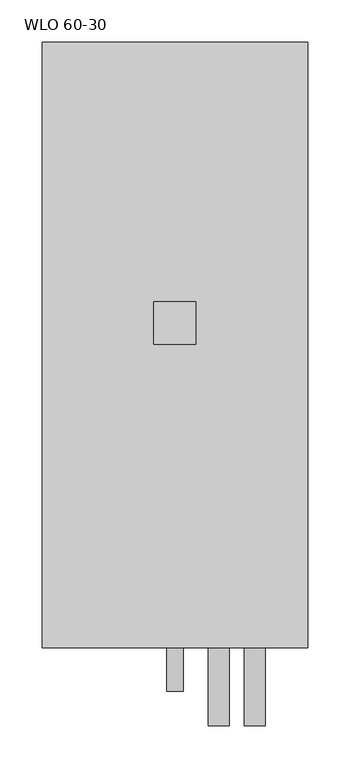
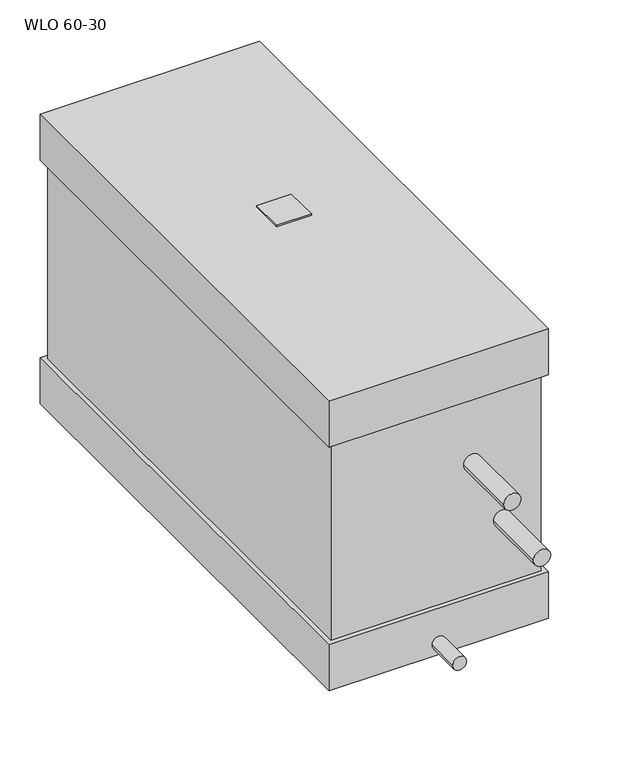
"""IFC4 building model written with IfcOpenShell, lengths in millimetres: proxy geometry, KORF_Воздухоохладитель_Водяной_WLO_Левый : WLO 60-30."""

from ifc_helpers import new_model, si_unit, point, frame, frame_2d, origin, place, context, project, spatial, polyline, circle_curve, trimmed, segment, composite_curve, outline, extrude, faceted_brep, source, transform, mapped, element, save


def wlo_60_30_512c8331(model_context):
    return source(origin(), model_context, "Body", "SolidModel", [
        extrude(outline(polyline([(133.0, -25.0), (133.0, 25.0), (183.0, 25.0), (183.0, -25.0), (133.0, -25.0)])), frame((0.0, 0.0, 220.0), z_axis=(0.0, 0.0, 1.0), x_axis=(1.0, 0.0, 0.0)), (0.0, 0.0, 1.0), 2.0),
        faceted_brep([(316.0, -386.0, 220.0), (316.0, -386.0, 150.0), (316.0, 334.0, 150.0), (316.0, 334.0, 220.0), (316.0, -386.0, -150.0), (316.0, -386.0, -220.0), (316.0, 334.0, -220.0), (316.0, 334.0, -150.0), (0.0, -386.0, 220.0), (0.0, 334.0, 220.0), (0.0, 334.0, 150.0), (0.0, -386.0, 150.0), (0.0, -386.0, -150.0), (0.0, 334.0, -150.0), (0.0, 334.0, -220.0), (0.0, -386.0, -220.0), (7.0, -379.0, 150.0), (309.0, -379.0, 150.0), (309.0, -300.0, 150.0), (309.0, 300.0, 150.0), (309.0, 327.0, 150.0), (7.0, 327.0, 150.0), (7.0, 300.0, 150.0), (7.0, -300.0, 150.0), (309.0, -379.0, -150.0), (7.0, -379.0, -150.0), (7.0, -300.0, -150.0), (7.0, 300.0, -150.0), (7.0, 327.0, -150.0), (309.0, 327.0, -150.0), (309.0, 300.0, -150.0), (309.0, -300.0, -150.0)], [[[0, 1, 2, 3]], [[4, 5, 6, 7]], [[8, 9, 10, 11]], [[12, 13, 14, 15]], [[1, 0, 8, 11]], [[2, 1, 11, 10], [16, 17, 18, 19, 20, 21, 22, 23]], [[3, 2, 10, 9]], [[0, 3, 9, 8]], [[5, 4, 12, 15]], [[6, 5, 15, 14]], [[7, 6, 14, 13]], [[4, 7, 13, 12], [24, 25, 26, 27, 28, 29, 30, 31]], [[17, 24, 31, 30, 29, 20, 19, 18]], [[21, 28, 27, 26, 25, 16, 23, 22]], [[24, 17, 16, 25]], [[20, 29, 28, 21]]]),
        extrude(outline(composite_curve([segment(trimmed(circle_curve(frame_2d((50.0, 210.0)), 12.5), [point((50.0, 197.5))], [point((50.0, 222.5))], False, "CARTESIAN"), True, "CONTINUOUS"), segment(trimmed(circle_curve(frame_2d((50.0, 210.0)), 12.5), [point((50.0, 222.5))], [point((50.0, 197.5))], False, "CARTESIAN"), True, "CONTINUOUS")], self_intersect=False)), frame((0.0, -479.0, 0.0), z_axis=(0.0, 1.0, 0.0), x_axis=(0.0, 0.0, 1.0)), (0.0, 0.0, 1.0), 100.0),
        extrude(outline(composite_curve([segment(trimmed(circle_curve(frame_2d((-50.0, 253.0)), 12.5), [point((-50.0, 240.5))], [point((-50.0, 265.5))], False, "CARTESIAN"), True, "CONTINUOUS"), segment(trimmed(circle_curve(frame_2d((-50.0, 253.0)), 12.5), [point((-50.0, 265.5))], [point((-50.0, 240.5))], False, "CARTESIAN"), True, "CONTINUOUS")], self_intersect=False)), frame((0.0, -479.0, 0.0), z_axis=(0.0, 1.0, 0.0), x_axis=(0.0, 0.0, 1.0)), (0.0, 0.0, 1.0), 100.0),
        extrude(outline(composite_curve([segment(trimmed(circle_curve(frame_2d((-202.0, 158.0)), 10.0), [point((-202.0, 148.0))], [point((-202.0, 168.0))], False, "CARTESIAN"), True, "CONTINUOUS"), segment(trimmed(circle_curve(frame_2d((-202.0, 158.0)), 10.0), [point((-202.0, 168.0))], [point((-202.0, 148.0))], False, "CARTESIAN"), True, "CONTINUOUS")], self_intersect=False)), frame((0.0, -438.0, 0.0), z_axis=(0.0, 1.0, 0.0), x_axis=(0.0, 0.0, 1.0)), (0.0, 0.0, 1.0), 52.0),
    ])


if __name__ == "__main__":
    model = new_model("IFC4")
    model_context = context("Model", 3, world=origin())
    ifc_project = project(units=[si_unit("LENGTHUNIT", "METRE", prefix="MILLI")], contexts=[model_context])
    site = spatial("IfcSite", under=ifc_project)
    building = spatial("IfcBuilding", under=site)
    placement = place(None, origin())
    wlo_60_30_shape = wlo_60_30_512c8331(model_context)
    element("IfcBuildingElementProxy", 1, Name="KORF_Воздухоохладитель_Водяной_WLO_Левый : WLO 60-30", ObjectType="KORF_Воздухоохладитель_Водяной_WLO_Левый : WLO 60-30", at=placement, inside=building, context=model_context, shape_type="MappedRepresentation", body=[
        mapped(wlo_60_30_shape, transform((0.0, 0.0, 0.0), x_axis=(1.0, 0.0, 0.0), y_axis=(0.0, 1.0, 0.0), z_axis=(0.0, 0.0, 1.0))),
    ])
    save(model, "model.ifc")
